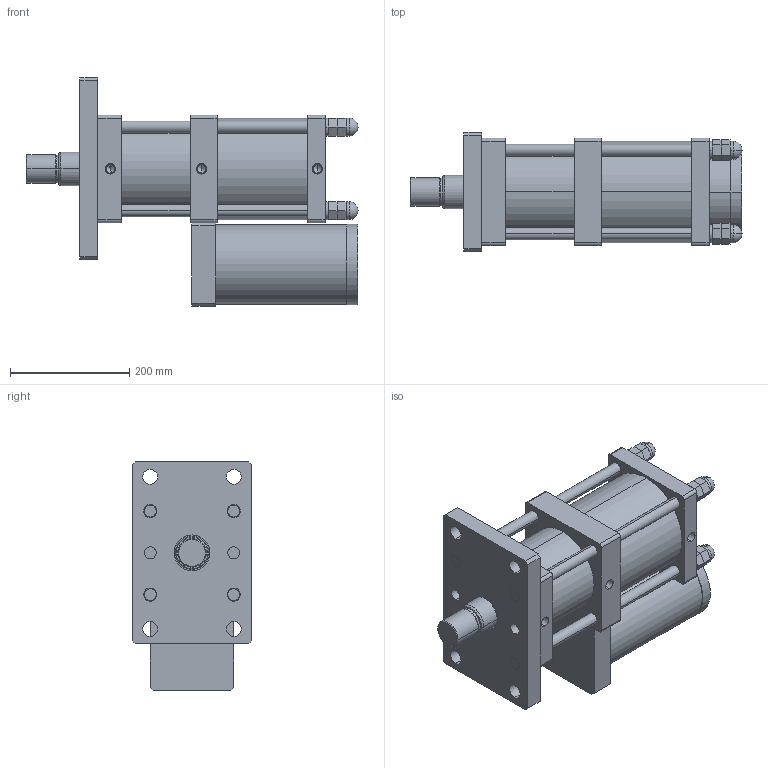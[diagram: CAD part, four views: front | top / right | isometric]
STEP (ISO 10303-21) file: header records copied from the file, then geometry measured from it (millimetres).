
FILE_DESCRIPTION (( 'STEP AP203' ), '1' );
FILE_NAME ('CPT-125-50-5-20T.STEP', '2016-03-12T01:39:31', ( 'WIN' ), ( '' ), 'SwSTEP 2.0', 'SolidWorks 2014', '' );
FILE_SCHEMA (( 'CONFIG_CONTROL_DESIGN' ));
Length unit declared in the file: millimetre
Products named in the file (1): CPT-125-50-5-20T
Bounding box: 556 x 200 x 382.5 mm (x, y, z)
Volume: 12732786.1 mm3; surface area: 1032854.7 mm2
Topology: 17 solids, 17 shells, 320 faces, 732 edges, 458 vertices
Faces by surface type: plane 154, cylinder 124, cone 30, sphere 8, torus 4
Entity records: 8963 total; most frequent: DIRECTION 1652, CARTESIAN_POINT 1479, ORIENTED_EDGE 1416, EDGE_CURVE 708, AXIS2_PLACEMENT_3D 623, VERTEX_POINT 450, VECTOR 406, LINE 406
